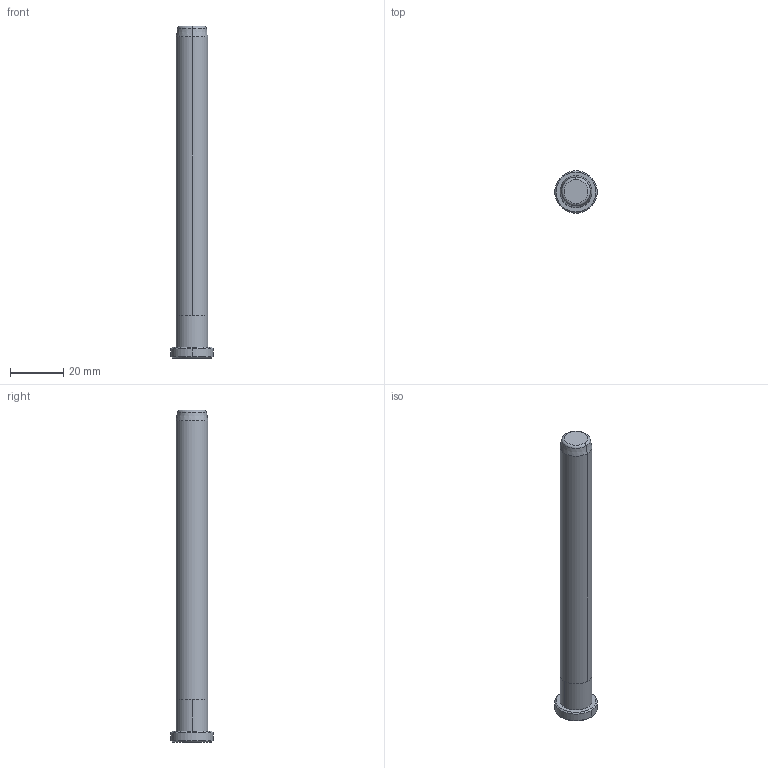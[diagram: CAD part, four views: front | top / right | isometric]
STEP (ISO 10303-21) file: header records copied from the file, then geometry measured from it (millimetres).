
FILE_DESCRIPTION((''),'2;1');
FILE_NAME('B80812125','2018-01-06T',('MANU'),(''),'PRO/ENGINEER BY PARAMETRIC TECHNOLOGY CORPORATION, 2012130','PRO/ENGINEER BY PARAMETRIC TECHNOLOGY CORPORATION, 2012130','');
FILE_SCHEMA(('CONFIG_CONTROL_DESIGN'));
Length unit declared in the file: millimetre
Products named in the file (1): B80812125
Bounding box: 16 x 16 x 125 mm (x, y, z)
Volume: 14425.6 mm3; surface area: 5094 mm2
Topology: 1 solids, 1 shells, 18 faces, 34 edges, 20 vertices
Faces by surface type: cone 6, cylinder 6, plane 4, torus 2
Entity records: 494 total; most frequent: DIRECTION 92, CARTESIAN_POINT 72, ORIENTED_EDGE 68, AXIS2_PLACEMENT_3D 40, EDGE_CURVE 34, CIRCLE 22, VERTEX_POINT 20, EDGE_LOOP 20
